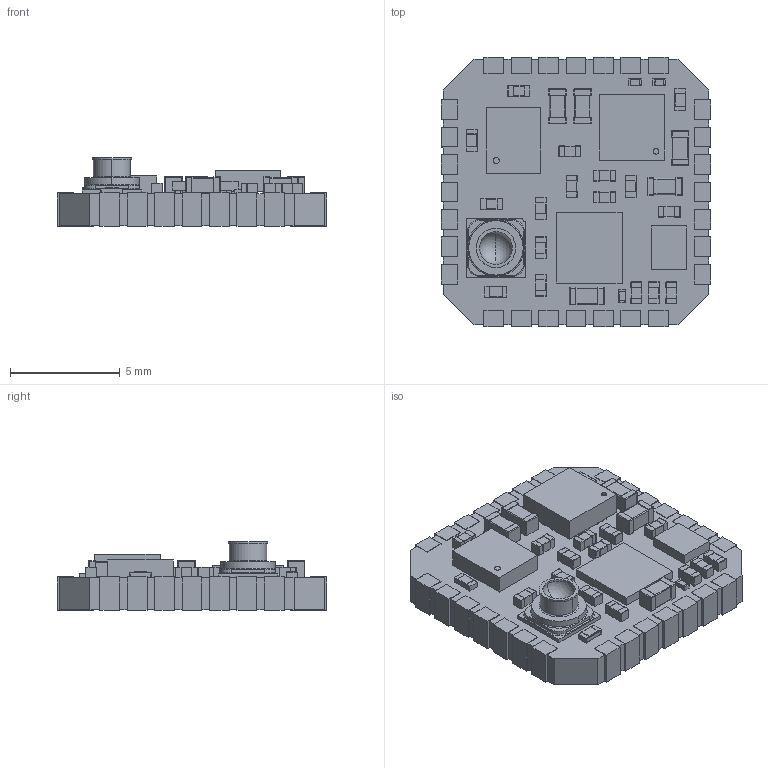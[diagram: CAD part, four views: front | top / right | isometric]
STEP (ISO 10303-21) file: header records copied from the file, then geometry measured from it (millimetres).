
FILE_DESCRIPTION (( 'STEP AP214' ), '1' );
FILE_NAME ('ﾃﾊﾂ-0.STEP', '2026-05-26T07:40:30', ( 'NadezhdaS-PC' ), ( '' ), 'SwSTEP 2.0', 'SolidWorks 2026', '' );
FILE_SCHEMA (( 'AUTOMOTIVE_DESIGN' ));
Length unit declared in the file: millimetre
Products named in the file (1): ГКВ-0
Bounding box: 12.3 x 12.3 x 3.13 mm (x, y, z)
Volume: 247.5 mm3; surface area: 501.2 mm2
Topology: 2 solids, 2 shells, 1259 faces, 3388 edges, 2070 vertices
Faces by surface type: plane 830, cylinder 317, sphere 98, torus 10, bspline 4
Entity records: 38273 total; most frequent: CARTESIAN_POINT 6806, ORIENTED_EDGE 6576, DIRECTION 6467, EDGE_CURVE 3288, VECTOR 2601, LINE 2601, VERTEX_POINT 2068, AXIS2_PLACEMENT_3D 1933
